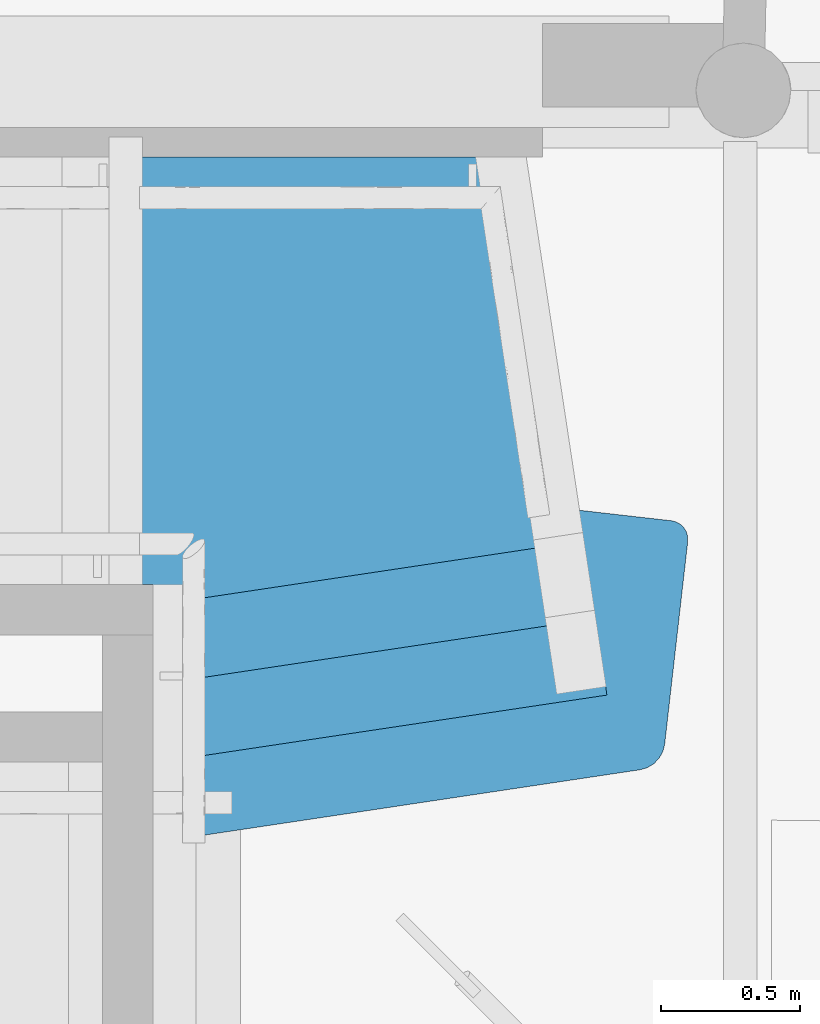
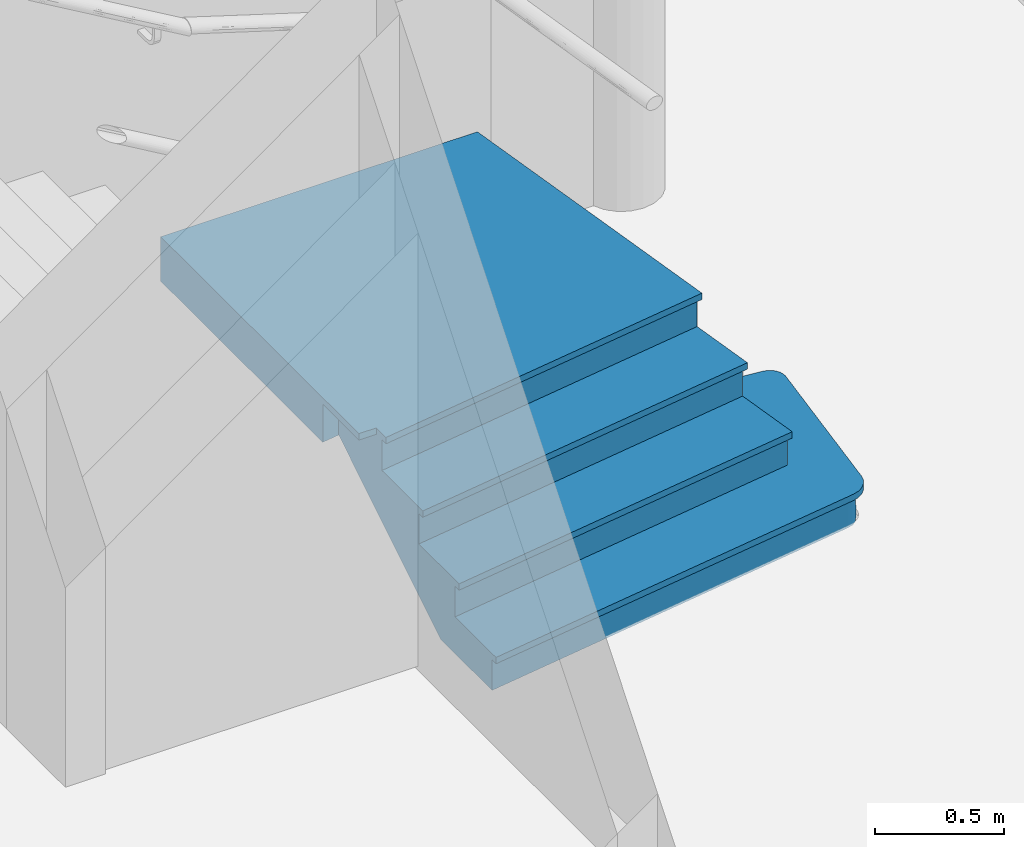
# One storey, part 48 of 65: 1 stair flight, 1 element without a shape of its own.
"""IFC4 building model written with IfcOpenShell, lengths in metres."""

import ifcopenshell
import ifcopenshell.guid

model = None  # the IFC model being written
_history = None  # IfcOwnerHistory: only IFC2X3 demands one
_inside = {}  # id of a spatial element -> (the spatial element, [elements in it])
_under = {}  # id of a project, library or spatial element -> (it, [spatial elements below it])
_declared = {}  # id of a project -> (the project, [libraries it declares])
_typed = {}  # id of a type object -> (the type object, [elements of that type])
_made_of = {}  # id of a material, layer set ... -> (it, [elements and type objects made of it])


def new_model(schema):
    """Start an empty IFC model of exactly this schema.

    Asked for "IFC4X3", IfcOpenShell would pick the latest addendum, in which some entities
    have other attributes; the version numbers below select the first issue.
    IFC2X3 requires an IfcOwnerHistory on every rooted entity: one is made here for all.
    """
    global model, _history
    if schema == "IFC4X3":
        model = ifcopenshell.file(schema_version=(4, 3, 0, 0))
    else:
        model = ifcopenshell.file(schema=schema)
    _inside.clear()
    _under.clear()
    _declared.clear()
    _typed.clear()
    _made_of.clear()
    _history = None
    if model.schema == "IFC2X3":
        org = make("IfcOrganization", Name="unknown")
        user = make(
            "IfcPersonAndOrganization",
            ThePerson=make("IfcPerson", FamilyName="unknown"),
            TheOrganization=org,
        )
        app = make(
            "IfcApplication",
            ApplicationDeveloper=org,
            Version="unknown",
            ApplicationFullName="unknown",
            ApplicationIdentifier="unknown",
        )
        _history = make(
            "IfcOwnerHistory",
            OwningUser=user,
            OwningApplication=app,
            ChangeAction="ADDED",
            CreationDate=0,
        )
    return model


def make(cls, **values):
    """One entity of the class cls with the attributes given. An attribute that is None is left unset."""
    return model.create_entity(
        cls, **{name: value for name, value in values.items() if value is not None}
    )


def entity(cls, *values):
    """Any entity or typed value of the class cls, its attributes in the order of the schema. None: left unset."""
    e = model.create_entity(cls)
    for i, value in enumerate(values):
        if value is not None:
            e[i] = value
    return e


def rooted(cls, **values):
    """An entity with a GlobalId (a new one), such as an element, a storey or a relation."""
    return make(cls, GlobalId=ifcopenshell.guid.new(), OwnerHistory=_history, **values)


def si_unit(unit_type, name, prefix=None):
    """IfcSIUnit, for example si_unit("LENGTHUNIT", "METRE", prefix="MILLI")."""
    return make("IfcSIUnit", UnitType=unit_type, Prefix=prefix, Name=name)


def converted_unit(unit_type, name, factor, base, dimensions=None, offset=None):
    """IfcConversionBasedUnit, such as the inch: factor (a typed value) times the base unit."""
    return make(
        "IfcConversionBasedUnit"
        if offset is None
        else "IfcConversionBasedUnitWithOffset",
        ConversionOffset=offset,
        Dimensions=None
        if dimensions is None
        else entity("IfcDimensionalExponents", *dimensions),
        UnitType=unit_type,
        Name=name,
        ConversionFactor=make(
            "IfcMeasureWithUnit", ValueComponent=factor, UnitComponent=base
        ),
    )


def derived_unit(unit_type, elements):
    """IfcDerivedUnit: a product of units, each with its exponent."""
    return make(
        "IfcDerivedUnit",
        Elements=[
            make("IfcDerivedUnitElement", Unit=unit, Exponent=power)
            for unit, power in elements
        ],
        UnitType=unit_type,
    )


def assignment(units):
    """IfcUnitAssignment: the units of a project."""
    return None if units is None else make("IfcUnitAssignment", Units=units)


def point(xyz):
    """IfcCartesianPoint."""
    return None if xyz is None else make("IfcCartesianPoint", Coordinates=xyz)


def direction(xyz):
    """IfcDirection."""
    return None if xyz is None else make("IfcDirection", DirectionRatios=xyz)


def frame(location, z_axis=None, x_axis=None):
    """IfcAxis2Placement3D, a coordinate frame: its origin and axes. An axis left out is left unset."""
    return make(
        "IfcAxis2Placement3D",
        Location=point(location),
        Axis=direction(z_axis),
        RefDirection=direction(x_axis),
    )


def origin():
    """The frame at (0, 0, 0) with its axes left unset."""
    return frame((0.0, 0.0, 0.0))


def place(relative_to, where):
    """IfcLocalPlacement: puts the frame where relative to a parent placement (None: the world)."""
    return make(
        "IfcLocalPlacement", PlacementRelTo=relative_to, RelativePlacement=where
    )


def context(
    kind, dimensions, precision=None, world=None, true_north=None, identifier=None
):
    """IfcGeometricRepresentationContext, for example the 3D "Model" context."""
    return make(
        "IfcGeometricRepresentationContext",
        ContextIdentifier=identifier,
        ContextType=kind,
        CoordinateSpaceDimension=dimensions,
        Precision=precision,
        WorldCoordinateSystem=world,
        TrueNorth=true_north,
    )


def subcontext(parent, identifier, kind, view, scale=None):
    """IfcGeometricRepresentationSubContext, for example "Body" below "Model"."""
    return make(
        "IfcGeometricRepresentationSubContext",
        ContextIdentifier=identifier,
        ContextType=kind,
        ParentContext=parent,
        TargetScale=scale,
        TargetView=view,
    )


def project(units=None, contexts=None):
    """IfcProject with its units and contexts."""
    return rooted(
        "IfcProject",
        Name="project",
        RepresentationContexts=contexts,
        UnitsInContext=assignment(units),
    )


def spatial(cls, under=None, at=None, **own):
    """A site, building, storey or space (cls), placed at a placement, below another one or the project."""
    s = rooted(cls, ObjectPlacement=at, **own)
    if under is not None:
        _under.setdefault(under.id(), (under, []))[1].append(s)
    return s


def point_list(points):
    """IfcCartesianPointList2D or 3D."""
    cls = (
        "IfcCartesianPointList2D" if len(points[0]) == 2 else "IfcCartesianPointList3D"
    )
    return make(cls, CoordList=points)


def polygons(points, faces, closed=None, point_numbers=None):
    """IfcPolygonalFaceSet: a face is its outer loop, then its inner loops; points numbered from 1."""
    made = []
    for loops in faces:
        if len(loops) == 1:
            made.append(make("IfcIndexedPolygonalFace", CoordIndex=loops[0]))
        else:
            made.append(
                make(
                    "IfcIndexedPolygonalFaceWithVoids",
                    CoordIndex=loops[0],
                    InnerCoordIndices=loops[1:],
                )
            )
    return make(
        "IfcPolygonalFaceSet",
        Coordinates=point_list(points),
        Closed=closed,
        Faces=made,
        PnIndex=point_numbers,
    )


def shape(context_of_items, identifier, shape_type, items):
    """IfcShapeRepresentation: the items that make up one representation, for example the "Body"."""
    return make(
        "IfcShapeRepresentation",
        ContextOfItems=context_of_items,
        RepresentationIdentifier=identifier,
        RepresentationType=shape_type,
        Items=items,
    )


def material(Name=None, Category=None):
    """IfcMaterial."""
    return make("IfcMaterial", Name=Name, Category=Category)


def constituent(of_material, Name=None, Category=None, fraction=None):
    """IfcMaterialConstituent: one of the materials an element consists of."""
    return make(
        "IfcMaterialConstituent",
        Name=Name,
        Material=of_material,
        Fraction=fraction,
        Category=Category,
    )


def constituent_set(constituents=None, Name=None):
    """IfcMaterialConstituentSet."""
    return make(
        "IfcMaterialConstituentSet", Name=Name, MaterialConstituents=constituents
    )


def made_of(thing, what):
    """Note that an element or type object is made of a material, layer set ...; save() writes the relation."""
    if what is not None:
        _made_of.setdefault(what.id(), (what, []))[1].append(thing)
    return thing


def type_object(cls, material=None, **own):
    """A type object (cls), such as IfcWallType, which elements share."""
    return made_of(rooted(cls, **own), material)


def element(
    cls,
    number,
    at=None,
    inside=None,
    cuts=None,
    type_object=None,
    material=None,
    context=None,
    identifier="Body",
    shape_type=None,
    held_by="IfcProductDefinitionShape",
    body=None,
    shapes=None,
    **own,
):
    """One element of the class cls, such as IfcWall. Its Tag is "e" and its number.

    at: its placement. inside: the storey or other place that contains it. cuts: it is an
    opening in that element (IfcRelVoidsElement). A single representation is given by context,
    identifier, shape_type and body (its items); several are given by shapes. held_by: the class
    of the entity that holds the representations. save() writes the other relations.
    """
    e = rooted(cls, Tag="e%d" % number, ObjectPlacement=at, **own)
    if body is not None:
        shapes = [shape(context, identifier, shape_type, body)]
    if shapes is not None:
        e.Representation = make(held_by, Representations=shapes)
    if inside is not None:
        _inside.setdefault(inside.id(), (inside, []))[1].append(e)
    if cuts is not None:
        rooted(
            "IfcRelVoidsElement", RelatingBuildingElement=cuts, RelatedOpeningElement=e
        )
    if type_object is not None:
        _typed.setdefault(type_object.id(), (type_object, []))[1].append(e)
    return made_of(e, material)


def aggregate(whole, parts):
    """IfcRelAggregates: a whole, such as a stair, and the parts it consists of."""
    return rooted("IfcRelAggregates", RelatingObject=whole, RelatedObjects=parts)


def save(model, path):
    """Write the relations noted so far, then the file.

    IfcRelAggregates (storeys below a building ...), IfcRelContainedInSpatialStructure (elements
    in a storey), IfcRelDefinesByType, IfcRelAssociatesMaterial and IfcRelDeclares: one each for
    every whole, place, type object, material and project.
    """
    for whole, parts in _under.values():
        aggregate(whole, parts)
    for where, things in _inside.values():
        rooted(
            "IfcRelContainedInSpatialStructure",
            RelatedElements=things,
            RelatingStructure=where,
        )
    for kind, things in _typed.values():
        rooted("IfcRelDefinesByType", RelatedObjects=things, RelatingType=kind)
    for what, things in _made_of.values():
        rooted("IfcRelAssociatesMaterial", RelatedObjects=things, RelatingMaterial=what)
    for by, libraries in _declared.values():
        rooted("IfcRelDeclares", RelatingContext=by, RelatedDefinitions=libraries)
    model.write(path)


model = new_model("IFC4")

# Units and contexts
model_context = context("Model", 3, precision=1e-05, world=origin(), true_north=direction((6.12303176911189e-17, 1.0)))
body_context = subcontext(model_context, "Body", "Model", "MODEL_VIEW")
ifc_project = project(units=[si_unit("LENGTHUNIT", "METRE"), si_unit("AREAUNIT", "SQUARE_METRE"), si_unit("VOLUMEUNIT", "CUBIC_METRE"), converted_unit("PLANEANGLEUNIT", "DEGREE", entity("IfcRatioMeasure", 0.0174532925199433), si_unit("PLANEANGLEUNIT", "RADIAN"), dimensions=[0, 0, 0, 0, 0, 0, 0]), si_unit("MASSUNIT", "GRAM", prefix="KILO"), derived_unit("MASSDENSITYUNIT", [(si_unit("MASSUNIT", "GRAM", prefix="KILO"), 1), (si_unit("LENGTHUNIT", "METRE"), -3)]), derived_unit("MOMENTOFINERTIAUNIT", [(si_unit("LENGTHUNIT", "METRE"), 4)]), si_unit("TIMEUNIT", "SECOND"), si_unit("FREQUENCYUNIT", "HERTZ"), si_unit("THERMODYNAMICTEMPERATUREUNIT", "DEGREE_CELSIUS"), derived_unit("THERMALTRANSMITTANCEUNIT", [(si_unit("MASSUNIT", "GRAM", prefix="KILO"), 1), (si_unit("THERMODYNAMICTEMPERATUREUNIT", "KELVIN"), -1), (si_unit("TIMEUNIT", "SECOND"), -3)]), derived_unit("VOLUMETRICFLOWRATEUNIT", [(si_unit("LENGTHUNIT", "METRE"), 3), (si_unit("TIMEUNIT", "SECOND"), -1)]), si_unit("ELECTRICCURRENTUNIT", "AMPERE"), si_unit("ELECTRICVOLTAGEUNIT", "VOLT"), si_unit("POWERUNIT", "WATT"), si_unit("FORCEUNIT", "NEWTON", prefix="KILO"), si_unit("ILLUMINANCEUNIT", "LUX"), si_unit("LUMINOUSFLUXUNIT", "LUMEN"), si_unit("LUMINOUSINTENSITYUNIT", "CANDELA"), derived_unit("USERDEFINED", [(si_unit("MASSUNIT", "GRAM", prefix="KILO"), -1), (si_unit("LENGTHUNIT", "METRE"), -2), (si_unit("TIMEUNIT", "SECOND"), 3), (si_unit("LUMINOUSFLUXUNIT", "LUMEN"), 1)]), derived_unit("LINEARVELOCITYUNIT", [(si_unit("LENGTHUNIT", "METRE"), 1), (si_unit("TIMEUNIT", "SECOND"), -1)]), si_unit("PRESSUREUNIT", "PASCAL"), derived_unit("USERDEFINED", [(si_unit("LENGTHUNIT", "METRE"), -2), (si_unit("MASSUNIT", "GRAM", prefix="KILO"), 1), (si_unit("TIMEUNIT", "SECOND"), -2)]), derived_unit("LINEARFORCEUNIT", [(si_unit("MASSUNIT", "GRAM", prefix="KILO"), 1), (si_unit("LENGTHUNIT", "METRE"), 1), (si_unit("TIMEUNIT", "SECOND"), -2), (si_unit("LENGTHUNIT", "METRE"), -1)]), derived_unit("PLANARFORCEUNIT", [(si_unit("MASSUNIT", "GRAM", prefix="KILO"), 1), (si_unit("LENGTHUNIT", "METRE"), 1), (si_unit("TIMEUNIT", "SECOND"), -2), (si_unit("LENGTHUNIT", "METRE"), -2)])], contexts=[model_context])

# Site, building, storey
site_placement = place(None, origin())
site = spatial("IfcSite", under=ifc_project, at=site_placement, Name="Default", CompositionType="ELEMENT")
building_placement = place(site_placement, origin())
building = spatial("IfcBuilding", under=site, at=building_placement, Name="HOTEL CONSULAIRE BOULOGNE SUR MER", CompositionType="ELEMENT")
storey_placement = place(building_placement, origin())
storey = spatial("IfcBuildingStorey", under=building, at=storey_placement, Name="Niveau 0", CompositionType="ELEMENT", Elevation=1.31981936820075e-13)

# Stair, stair flight
stair_type = type_object("IfcStairType", PredefinedType="NOTDEFINED")
stair_placement = place(storey_placement, origin())
stair = element("IfcStair", 1, at=stair_placement, inside=storey, type_object=stair_type, Name="Escalier coulé sur place:Escalier", PredefinedType="NOTDEFINED")
ifc_material_1 = material(Name="carrelage 30x30")
ifc_constituent_1 = constituent(ifc_material_1, Name="carrelage 30x30", Category="Matériaux")
ifc_material_2 = material(Name="Maçonnerie - Béton", Category="Béton")
ifc_constituent_2 = constituent(ifc_material_2, Name="Maçonnerie - Béton", Category="Matériaux")
ifc_constituent_set = constituent_set(constituents=[ifc_constituent_1, ifc_constituent_2], Name="MaterialConstituentSet")
stair_flight_type = type_object("IfcStairFlightType", Name="Volée monobloc:Profondeur de structure 180", PredefinedType="NOTDEFINED")
stair_flight_placement = place(stair_placement, frame((4.97536051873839, -18.3148702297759, 0.0)))
stair_flight = element("IfcStairFlight", 2, at=stair_flight_placement, type_object=stair_flight_type, material=ifc_constituent_set, Name="Escalier coulé sur place:Escalier:345098 Run 1", ObjectType="Volée monobloc:Profondeur de structure 180", PredefinedType="NOTDEFINED", context=body_context, shape_type="Tessellation", body=[
    polygons([(0.0775258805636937, 0.316080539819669, 0.153999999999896), (0.0775258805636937, 0.0, 0.153999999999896), (1.82446962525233, 0.26208022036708, 0.153999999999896), (1.85080561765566, 0.269646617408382, 0.153999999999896), (1.8742871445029, 0.283769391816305, 0.153999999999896), (1.8933150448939, 0.303486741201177, 0.153999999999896), (1.90659346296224, 0.327455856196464, 0.153999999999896), (1.91321809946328, 0.354044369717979, 0.153999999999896), (1.99598692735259, 1.08127215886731, 0.153999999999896), (1.99567957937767, 1.09875996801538, 0.153999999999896), (1.9908565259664, 1.11557234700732, 0.153999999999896), (1.98184645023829, 1.13056355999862, 0.153999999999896), (1.96926337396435, 1.14271198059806, 0.153999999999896), (1.95396481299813, 1.15118971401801, 0.153999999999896), (1.93699333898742, 1.15541901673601, 0.153999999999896), (1.60597863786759, 1.19309318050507, 0.153999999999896), (1.70164630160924, 0.55973454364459, 0.153999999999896), (0.0775258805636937, 0.316080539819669, 0.123999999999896), (1.70164630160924, 0.559734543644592, 0.123999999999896), (1.60597863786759, 1.19309318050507, 0.123999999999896), (1.93699333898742, 1.15541901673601, 0.123999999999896), (1.95396481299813, 1.15118971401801, 0.123999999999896), (1.96926337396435, 1.14271198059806, 0.123999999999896), (1.98184645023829, 1.13056355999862, 0.123999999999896), (1.9908565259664, 1.11557234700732, 0.123999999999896), (1.99567957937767, 1.09875996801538, 0.123999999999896), (1.99598692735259, 1.08127215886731, 0.123999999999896), (1.91321809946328, 0.354044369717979, 0.123999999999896), (1.90659346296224, 0.327455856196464, 0.123999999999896), (1.8933150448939, 0.303486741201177, 0.123999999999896), (1.8742871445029, 0.283769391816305, 0.123999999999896), (1.85080561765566, 0.269646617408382, 0.123999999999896), (1.82446962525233, 0.26208022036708, 0.123999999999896), (0.0775258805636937, 0.0, 0.123999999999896)], [[[9, 10, 11, 12, 13, 14, 15, 16, 17, 1, 2, 3, 4, 5, 6, 7, 8]], [[19, 20, 21, 22, 23, 24, 25, 26, 27, 28, 29, 30, 31, 32, 33, 34, 18]], [[2, 1, 18, 34]], [[3, 2, 34, 33]], [[4, 3, 33, 32]], [[5, 4, 32, 31]], [[31, 30, 6, 5]], [[7, 6, 30, 29]], [[8, 7, 29, 28]], [[9, 8, 28, 27]], [[10, 9, 27, 26]], [[11, 10, 26, 25]], [[12, 11, 25, 24]], [[13, 12, 24, 23]], [[14, 13, 23, 22]], [[15, 14, 22, 21]], [[16, 15, 21, 20]], [[17, 16, 20, 19]], [[1, 17, 19, 18]]], closed=True),
    polygons([(0.0775258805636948, 0.59653444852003, 0.327999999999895), (0.0775258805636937, 0.285744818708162, 0.327999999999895), (1.70612692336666, 0.530071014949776, 0.327999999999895), (1.66022292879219, 0.833974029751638, 0.327999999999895), (0.0775258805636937, 0.59653444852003, 0.297999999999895), (1.66022292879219, 0.83397402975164, 0.297999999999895), (1.70612692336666, 0.530071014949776, 0.297999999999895), (0.0775258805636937, 0.285744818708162, 0.297999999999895)], [[[4, 1, 2, 3]], [[7, 8, 5, 6]], [[2, 1, 5, 8]], [[3, 2, 8, 7]], [[4, 3, 7, 6]], [[1, 4, 6, 5]]], closed=True),
    polygons([(0.0775258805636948, 0.881690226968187, 0.501999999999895), (0.0775258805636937, 0.566198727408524, 0.501999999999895), (1.6647035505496, 0.804310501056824, 0.501999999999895), (1.61810508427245, 1.1128111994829, 0.501999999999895), (0.0775258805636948, 0.881690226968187, 0.471999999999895), (1.61810508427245, 1.1128111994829, 0.471999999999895), (1.6647035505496, 0.804310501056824, 0.471999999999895), (0.0775258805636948, 0.566198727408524, 0.471999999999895)], [[[4, 1, 2, 3]], [[7, 8, 5, 6]], [[2, 1, 5, 8]], [[3, 2, 8, 7]], [[4, 3, 7, 6]], [[1, 4, 6, 5]]], closed=True),
    polygons([(0.0, 0.925982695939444, 0.675999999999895), (0.0775258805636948, 0.925982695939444, 0.675999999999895), (0.0775258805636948, 0.851354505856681, 0.675999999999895), (1.62258570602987, 1.08314767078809, 0.675999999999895), (1.41467084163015, 2.45962818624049, 0.675999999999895), (2.16573425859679e-15, 2.4596281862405, 0.675999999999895), (0.0, 0.925982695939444, 0.645999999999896), (2.16573425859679e-15, 2.4596281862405, 0.645999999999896), (1.41467084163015, 2.45962818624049, 0.645999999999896), (1.62258570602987, 1.08314767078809, 0.645999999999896), (0.0775258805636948, 0.851354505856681, 0.645999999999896), (0.0775258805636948, 0.925982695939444, 0.645999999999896)], [[[2, 3, 4, 5, 6, 1]], [[10, 11, 12, 7, 8, 9]], [[2, 1, 7, 12]], [[3, 2, 12, 11]], [[1, 6, 8, 7]], [[4, 3, 11, 10]], [[5, 4, 10, 9]], [[6, 5, 9, 8]]], closed=True),
    polygons([(0.0775258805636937, 0.316080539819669, 0.123999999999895), (0.0775258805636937, 0.030335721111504, 0.123999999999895), (1.82001876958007, 0.291748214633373, 0.123999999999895), (1.83883019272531, 0.297152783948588, 0.123999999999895), (1.85560271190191, 0.307240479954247, 0.123999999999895), (1.86919406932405, 0.321324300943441, 0.123999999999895), (1.87867865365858, 0.338445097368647, 0.123999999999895), (1.88341053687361, 0.357436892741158, 0.123999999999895), (1.96617936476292, 1.08466468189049, 0.123999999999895), (1.96600963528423, 1.09432212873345, 0.123999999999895), (1.96334615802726, 1.10360657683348, 0.123999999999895), (1.95837044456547, 1.11188530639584, 0.123999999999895), (1.95142158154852, 1.1185941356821, 0.123999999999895), (1.94297312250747, 1.12327586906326, 0.123999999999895), (1.93360081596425, 1.12561145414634, 0.123999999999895), (1.61061911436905, 1.16237134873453, 0.123999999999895), (1.61810508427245, 1.1128111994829, 0.123999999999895), (1.65075501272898, 0.89665546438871, 0.123999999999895), (1.66022292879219, 0.833974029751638, 0.123999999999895), (1.70164630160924, 0.559734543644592, 0.123999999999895), (0.0775258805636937, 0.316080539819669, -0.0200000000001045), (0.0775258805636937, 0.030335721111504, -0.0200000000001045), (1.82001876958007, 0.291748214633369, -0.0200000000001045), (1.84326210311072, 0.299257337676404, -0.0200000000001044), (1.86285978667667, 0.313837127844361, -0.0200000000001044), (1.8767331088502, 0.333941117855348, -0.0200000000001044), (1.88341053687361, 0.357436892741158, -0.0200000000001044), (1.96617936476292, 1.08466468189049, -0.0200000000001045), (1.96334615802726, 1.10360657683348, -0.0200000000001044), (1.95142158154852, 1.1185941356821, -0.0200000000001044), (1.93360081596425, 1.12561145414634, -0.0200000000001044), (1.96476276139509, 1.09413562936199, -0.0200000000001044), (1.95738386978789, 1.11110035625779, -0.0200000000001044), (1.94251119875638, 1.12210279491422, -0.0200000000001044), (1.61061911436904, 1.16237134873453, -0.0200000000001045), (0.0775258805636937, 0.316080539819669, 0.297999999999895), (1.70164630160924, 0.559734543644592, 0.297999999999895), (1.66022292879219, 0.83397402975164, 0.297999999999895), (0.0775258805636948, 0.59653444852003, 0.297999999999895), (0.0775258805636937, 0.368079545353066, 0.297999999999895), (0.0775258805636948, 0.596534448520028, 0.084560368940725), (0.0775258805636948, 0.42659089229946, -0.0200000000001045), (0.0775258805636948, 0.368079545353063, -0.0200000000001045), (0.0775258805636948, 0.881690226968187, 0.471999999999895), (0.0775258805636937, 0.59653444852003, 0.471999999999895), (1.66022292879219, 0.83397402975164, 0.471999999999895), (1.61810508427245, 1.1128111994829, 0.471999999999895), (0.0775258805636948, 0.881690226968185, 0.260006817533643), (1.66022292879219, 0.83397402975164, 0.465999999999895), (1.61810508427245, 1.1128111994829, 0.260006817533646), (1.61810508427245, 1.1128111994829, 0.465999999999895), (1.68532379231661, 0.667796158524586, -0.0200000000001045), (0.0775258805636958, 1.21649407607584, 0.645999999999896), (0.0775258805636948, 0.881690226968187, 0.645999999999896), (1.61810508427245, 1.1128111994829, 0.645999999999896), (1.56865416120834, 1.44019631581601, 0.645999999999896), (1.41467084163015, 2.45962818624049, 0.645999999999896), (2.16573425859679e-15, 2.4596281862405, 0.645999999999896), (1.08286712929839e-15, 1.20486347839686, 0.645999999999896), (0.0775258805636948, 1.21649407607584, 0.465999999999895), (1.60597863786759, 1.19309318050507, 0.310520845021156), (1.56865416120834, 1.44019631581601, 0.465999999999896), (1.41467084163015, 2.45962818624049, 0.465999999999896), (2.16573425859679e-15, 2.4596281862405, 0.465999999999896), (0.0, 1.20486347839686, 0.465999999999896)], [[[15, 16, 17, 18, 19, 20, 1, 2, 3, 4, 5, 6, 7, 8, 9, 10, 11, 12, 13, 14]], [[38, 39, 40, 36, 37]], [[47, 44, 45, 46]], [[53, 54, 55, 56, 57, 58, 59]], [[2, 1, 36, 40, 39, 45, 44, 54, 53, 60, 48, 41, 42, 43, 21, 22]], [[59, 58, 64, 65]], [[3, 2, 22, 23]], [[37, 36, 1, 20]], [[46, 45, 39, 38, 49]], [[55, 54, 44, 47]], [[53, 59, 65, 60]], [[23, 24, 4]], [[23, 4, 3]], [[4, 24, 5]], [[24, 25, 5]], [[26, 27, 7]], [[25, 26, 6]], [[26, 7, 6]], [[7, 27, 8]], [[25, 6, 5]], [[9, 8, 27, 28]], [[11, 10, 29]], [[32, 9, 28]], [[33, 11, 29]], [[9, 32, 10]], [[34, 31, 14]], [[34, 13, 30]], [[33, 30, 12]], [[11, 33, 12]], [[12, 30, 13]], [[32, 29, 10]], [[31, 15, 14]], [[13, 34, 14]], [[16, 15, 31, 35]], [[38, 37, 20, 19, 18, 50, 61, 62, 63, 57, 56, 55, 47, 46, 49]], [[23, 22, 21, 43, 42, 52, 35, 31, 34, 30, 33, 29, 32, 28, 27, 26, 25, 24]], [[63, 62, 60, 65, 64]], [[58, 57, 63, 64]], [[17, 16, 35, 52, 18]], [[48, 60, 62, 61, 50, 18, 52, 42, 41]]], closed=True),
])
aggregate(stair, [stair_flight])

save(model, "model.ifc")
